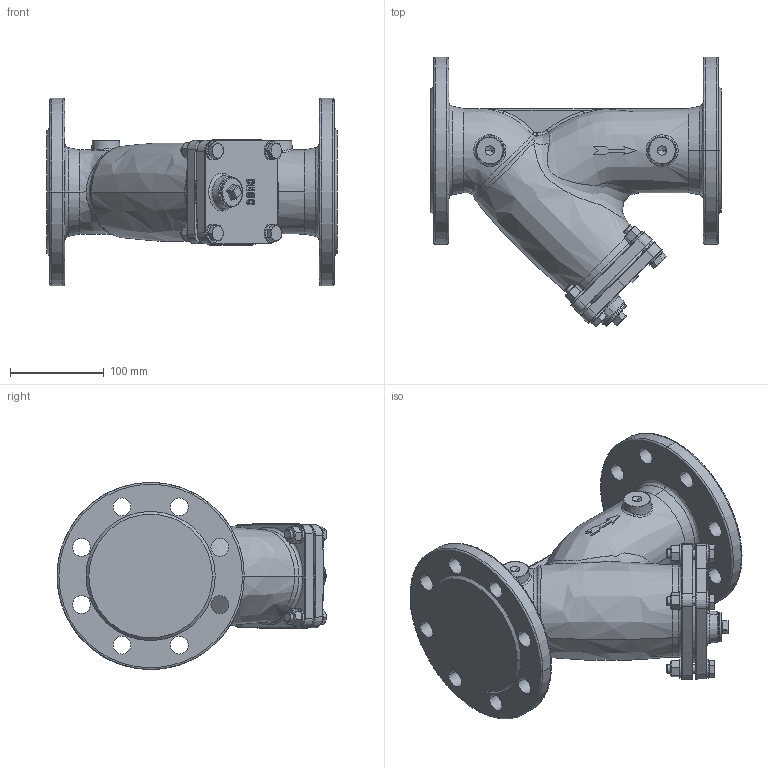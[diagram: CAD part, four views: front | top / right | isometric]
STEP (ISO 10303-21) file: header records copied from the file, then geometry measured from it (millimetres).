
FILE_DESCRIPTION (( 'STEP AP203' ), '1' );
FILE_NAME ('11.000C DN80.STEP', '2022-09-05T08:22:39', ( '' ), ( '' ), 'SwSTEP 2.0', 'SolidWorks 2017', '' );
FILE_SCHEMA (( 'CONFIG_CONTROL_DESIGN' ));
Products named in the file (1): 11.000C DN80
Bounding box: 310 x 288.33 x 200 mm (x, y, z)
Volume: 4038099.2 mm3; surface area: 316498.4 mm2
Topology: 1 solids, 7 shells, 555 faces, 1285 edges, 800 vertices
Faces by surface type: plane 180, bspline 141, cylinder 141, cone 93
Entity records: 56787 total; most frequent: CARTESIAN_POINT 44955, ORIENTED_EDGE 2554, DIRECTION 2236, EDGE_CURVE 1277, AXIS2_PLACEMENT_3D 916, VERTEX_POINT 800, EDGE_LOOP 659, ADVANCED_FACE 555
